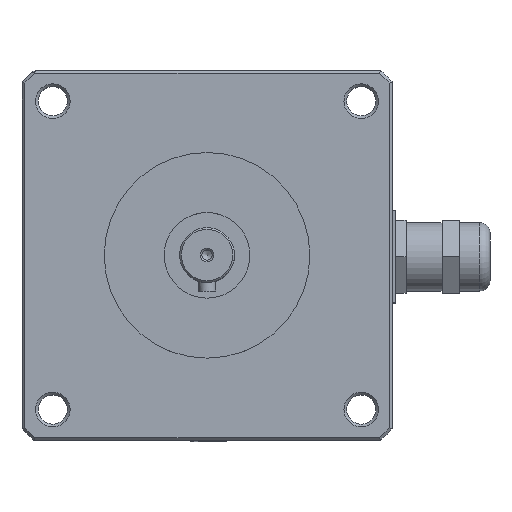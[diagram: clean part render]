
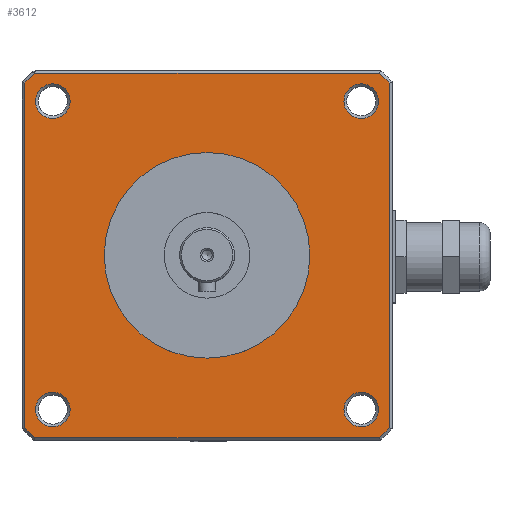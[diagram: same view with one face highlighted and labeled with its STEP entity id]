
A CAD part, top view. The second image highlights one B-rep face of the part: STEP entity #3612.
In plain terms, the highlighted planar face has unit normal (0, 0, 1).
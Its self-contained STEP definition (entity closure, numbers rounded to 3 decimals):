
#2556=CARTESIAN_POINT('',(-86.657,111.674,121.716));
#2557=VERTEX_POINT('',#2556);
#2851=CARTESIAN_POINT('',(-86.657,5.274,121.716));
#2852=VERTEX_POINT('',#2851);
#2853=CARTESIAN_POINT('',(-89.577,8.195,121.716));
#2854=VERTEX_POINT('',#2853);
#2855=CARTESIAN_POINT('',(-36.377,58.474,121.716));
#2856=DIRECTION('',(0.,0.,-1.0));
#2857=DIRECTION('',(-0.73,-0.684,0.));
#2858=AXIS2_PLACEMENT_3D('',#2855,#2856,#2857);
#2859=CIRCLE('',#2858,73.2);
#2860=EDGE_CURVE('',#2852,#2854,#2859,.T.);
#2969=CARTESIAN_POINT('',(-89.577,108.753,121.716));
#2970=VERTEX_POINT('',#2969);
#2971=CARTESIAN_POINT('',(-89.577,8.195,121.716));
#2972=DIRECTION('',(0.0,1.0,0.0));
#2973=VECTOR('',#2972,100.558);
#2974=LINE('',#2971,#2973);
#2975=EDGE_CURVE('',#2854,#2970,#2974,.T.);
#3081=CARTESIAN_POINT('',(-36.377,58.474,121.716));
#3082=DIRECTION('',(0.,0.,-1.0));
#3083=DIRECTION('',(-0.684,0.73,0.));
#3084=AXIS2_PLACEMENT_3D('',#3081,#3082,#3083);
#3085=CIRCLE('',#3084,73.2);
#3086=EDGE_CURVE('',#2970,#2557,#3085,.T.);
#3116=CARTESIAN_POINT('',(13.902,111.674,121.716));
#3117=VERTEX_POINT('',#3116);
#3118=CARTESIAN_POINT('',(-86.657,111.674,121.716));
#3119=DIRECTION('',(1.0,0.0,0.0));
#3120=VECTOR('',#3119,100.558);
#3121=LINE('',#3118,#3120);
#3122=EDGE_CURVE('',#2557,#3117,#3121,.T.);
#3139=CARTESIAN_POINT('',(16.823,108.753,121.716));
#3140=VERTEX_POINT('',#3139);
#3141=CARTESIAN_POINT('',(-36.377,58.474,121.716));
#3142=DIRECTION('',(0.,0.,-1.0));
#3143=DIRECTION('',(0.73,0.684,0.));
#3144=AXIS2_PLACEMENT_3D('',#3141,#3142,#3143);
#3145=CIRCLE('',#3144,73.2);
#3146=EDGE_CURVE('',#3117,#3140,#3145,.T.);
#3206=CARTESIAN_POINT('',(16.823,8.195,121.716));
#3207=VERTEX_POINT('',#3206);
#3208=CARTESIAN_POINT('',(16.823,108.753,121.716));
#3209=DIRECTION('',(0.0,-1.0,0.0));
#3210=VECTOR('',#3209,100.558);
#3211=LINE('',#3208,#3210);
#3212=EDGE_CURVE('',#3140,#3207,#3211,.T.);
#3264=CARTESIAN_POINT('',(13.902,5.274,121.716));
#3265=VERTEX_POINT('',#3264);
#3266=CARTESIAN_POINT('',(-36.377,58.474,121.716));
#3267=DIRECTION('',(0.,0.,-1.0));
#3268=DIRECTION('',(0.684,-0.73,0.));
#3269=AXIS2_PLACEMENT_3D('',#3266,#3267,#3268);
#3270=CIRCLE('',#3269,73.2);
#3271=EDGE_CURVE('',#3207,#3265,#3270,.T.);
#3298=CARTESIAN_POINT('',(13.902,5.274,121.716));
#3299=DIRECTION('',(-1.0,0.0,0.0));
#3300=VECTOR('',#3299,100.558);
#3301=LINE('',#3298,#3300);
#3302=EDGE_CURVE('',#3265,#2852,#3301,.T.);
#3542=CARTESIAN_POINT('',(-36.377,58.474,121.716));
#3543=DIRECTION('',(0.0,0.0,1.0));
#3544=DIRECTION('',(1.0,0.0,0.0));
#3545=AXIS2_PLACEMENT_3D('',#3542,#3543,#3544);
#3546=PLANE('',#3545);
#3547=ORIENTED_EDGE('',*,*,#2860,.F.);
#3548=ORIENTED_EDGE('',*,*,#3302,.F.);
#3549=ORIENTED_EDGE('',*,*,#3271,.F.);
#3550=ORIENTED_EDGE('',*,*,#3212,.F.);
#3551=ORIENTED_EDGE('',*,*,#3146,.F.);
#3552=ORIENTED_EDGE('',*,*,#3122,.F.);
#3553=ORIENTED_EDGE('',*,*,#3086,.F.);
#3554=ORIENTED_EDGE('',*,*,#2975,.F.);
#3555=EDGE_LOOP('',(#3547,#3548,#3549,#3550,#3551,#3552,#3553,#3554));
#3556=FACE_OUTER_BOUND('',#3555,.T.);
#3557=CARTESIAN_POINT('',(13.673,13.474,121.716));
#3558=VERTEX_POINT('',#3557);
#3559=CARTESIAN_POINT('',(8.623,13.474,121.716));
#3560=DIRECTION('',(0.0,0.0,1.0));
#3561=DIRECTION('',(-1.0,0.0,0.0));
#3562=AXIS2_PLACEMENT_3D('',#3559,#3560,#3561);
#3563=CIRCLE('',#3562,5.05);
#3564=EDGE_CURVE('',#3558,#3558,#3563,.T.);
#3565=ORIENTED_EDGE('',*,*,#3564,.F.);
#3566=EDGE_LOOP('',(#3565));
#3567=FACE_BOUND('',#3566,.T.);
#3568=CARTESIAN_POINT('',(13.673,103.474,121.716));
#3569=VERTEX_POINT('',#3568);
#3570=CARTESIAN_POINT('',(8.623,103.474,121.716));
#3571=DIRECTION('',(0.0,0.0,1.0));
#3572=DIRECTION('',(-1.0,0.0,0.0));
#3573=AXIS2_PLACEMENT_3D('',#3570,#3571,#3572);
#3574=CIRCLE('',#3573,5.05);
#3575=EDGE_CURVE('',#3569,#3569,#3574,.T.);
#3576=ORIENTED_EDGE('',*,*,#3575,.F.);
#3577=EDGE_LOOP('',(#3576));
#3578=FACE_BOUND('',#3577,.T.);
#3579=CARTESIAN_POINT('',(-6.377,58.474,121.716));
#3580=VERTEX_POINT('',#3579);
#3581=CARTESIAN_POINT('',(-36.377,58.474,121.716));
#3582=DIRECTION('',(0.0,0.0,-1.0));
#3583=DIRECTION('',(-1.0,0.0,0.0));
#3584=AXIS2_PLACEMENT_3D('',#3581,#3582,#3583);
#3585=CIRCLE('',#3584,30.0);
#3586=EDGE_CURVE('',#3580,#3580,#3585,.T.);
#3587=ORIENTED_EDGE('',*,*,#3586,.T.);
#3588=EDGE_LOOP('',(#3587));
#3589=FACE_BOUND('',#3588,.T.);
#3590=CARTESIAN_POINT('',(-76.327,103.474,121.716));
#3591=VERTEX_POINT('',#3590);
#3592=CARTESIAN_POINT('',(-81.377,103.474,121.716));
#3593=DIRECTION('',(0.0,0.0,1.0));
#3594=DIRECTION('',(-1.0,0.0,0.0));
#3595=AXIS2_PLACEMENT_3D('',#3592,#3593,#3594);
#3596=CIRCLE('',#3595,5.05);
#3597=EDGE_CURVE('',#3591,#3591,#3596,.T.);
#3598=ORIENTED_EDGE('',*,*,#3597,.F.);
#3599=EDGE_LOOP('',(#3598));
#3600=FACE_BOUND('',#3599,.T.);
#3601=CARTESIAN_POINT('',(-76.327,13.474,121.716));
#3602=VERTEX_POINT('',#3601);
#3603=CARTESIAN_POINT('',(-81.377,13.474,121.716));
#3604=DIRECTION('',(0.0,0.0,1.0));
#3605=DIRECTION('',(-1.0,0.0,0.0));
#3606=AXIS2_PLACEMENT_3D('',#3603,#3604,#3605);
#3607=CIRCLE('',#3606,5.05);
#3608=EDGE_CURVE('',#3602,#3602,#3607,.T.);
#3609=ORIENTED_EDGE('',*,*,#3608,.F.);
#3610=EDGE_LOOP('',(#3609));
#3611=FACE_BOUND('',#3610,.T.);
#3612=ADVANCED_FACE('',(#3556,#3567,#3578,#3589,#3600,#3611),#3546,.T.);
